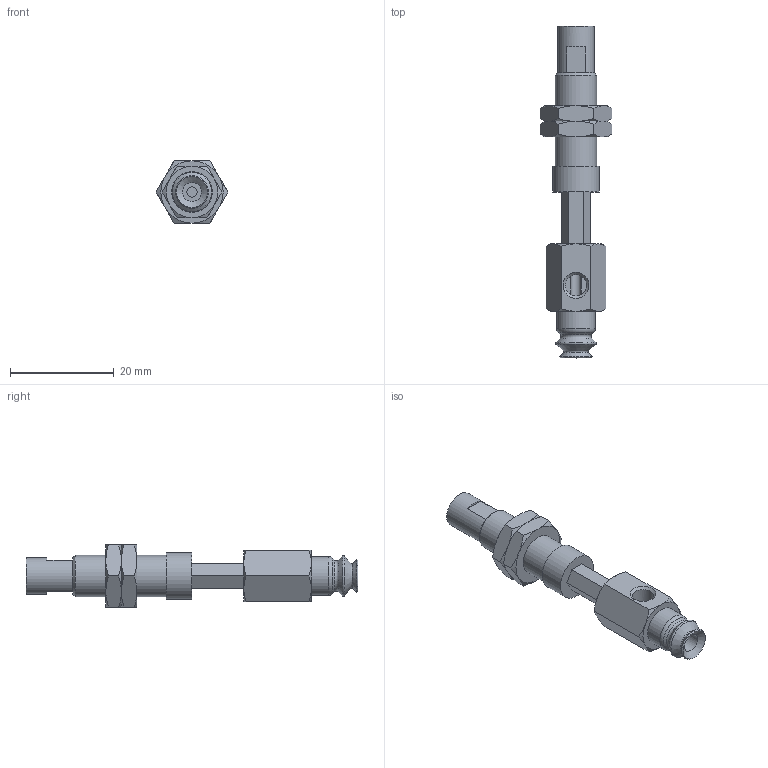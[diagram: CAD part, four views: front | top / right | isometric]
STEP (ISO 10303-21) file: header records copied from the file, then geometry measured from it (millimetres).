
FILE_DESCRIPTION(('STEP AP203'),'1');
FILE_NAME('.stp','2025-04-24T05:29:10',(' '),(' '),'Spatial InterOp 3D',' ',' ');
FILE_SCHEMA(('CONFIG_CONTROL_DESIGN'));
Length unit declared in the file: millimetre
Products named in the file (6): BNABPJYH-6-10-※; CONNECTOR_H-6-10; NAPJH-6-10-NUT; NAPJTH-6-10-FBODY; NAPJTH-6-10-MBODY; BPJG-6-※
Assembly tree (6 placements, depth 2):
  BNABPJYH-6-10-※
    CONNECTOR_H-6-10
    NAPJH-6-10-NUT  x2
    NAPJTH-6-10-FBODY
    NAPJTH-6-10-MBODY
    BPJG-6-※
Bounding box: 13.86 x 64 x 12 mm (x, y, z)
Volume: 3402.5 mm3; surface area: 4164.3 mm2
Topology: 6 solids, 6 shells, 141 faces, 311 edges, 189 vertices
Faces by surface type: plane 61, cone 54, cylinder 15, torus 11
Full cylindrical faces by diameter (mm): 2 x1, 3.64 x1, 4 x2, 4.134 x2, 5 x1, 6 x2, 7 x1, 7.188 x2, 7.5 x1, 8 x1, 9 x1
Entity records: 3484 total; most frequent: CARTESIAN_POINT 833, DIRECTION 488, ORIENTED_EDGE 422, EDGE_CURVE 211, AXIS2_PLACEMENT_3D 206, EDGE_LOOP 174, VERTEX_POINT 149, FACE_OUTER_BOUND 143
